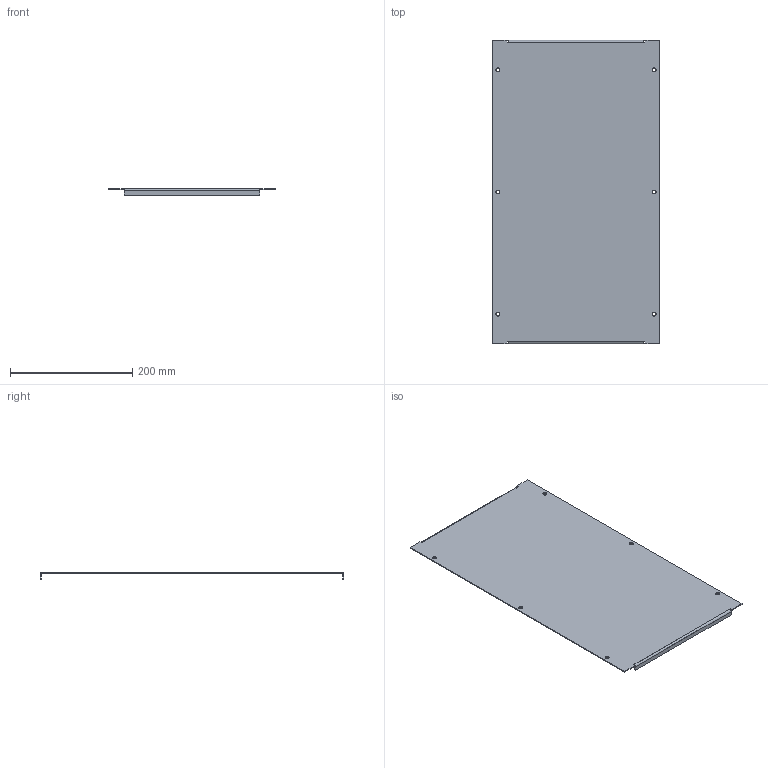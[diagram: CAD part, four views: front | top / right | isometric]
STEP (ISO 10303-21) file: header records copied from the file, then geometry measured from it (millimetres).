
FILE_DESCRIPTION(('STEP AP203'), '1');
FILE_NAME('Ïëàñòðîí ãëóõîé 500õ400 ìì OptiBox M 419416 ÊÝÀÇ', '', ('UNSPECIFIED'), ('UNSPECIFIED'), 'C3D Converter', 'C3D Toolkit', '');
FILE_SCHEMA(('CONFIG_CONTROL_DESIGN'));
Length unit declared in the file: millimetre
Bounding box: 272 x 497 x 10 mm (x, y, z)
Volume: 193638.7 mm3; surface area: 279024.1 mm2
Topology: 1 solids, 1 shells, 40 faces, 98 edges, 60 vertices
Faces by surface type: plane 30, cylinder 10
Full cylindrical faces by diameter (mm): 6.3 x6
Entity records: 1188 total; most frequent: DIRECTION 194, CARTESIAN_POINT 193, ORIENTED_EDGE 184, EDGE_CURVE 92, LINE 72, VECTOR 72, AXIS2_PLACEMENT_3D 61, VERTEX_POINT 60
